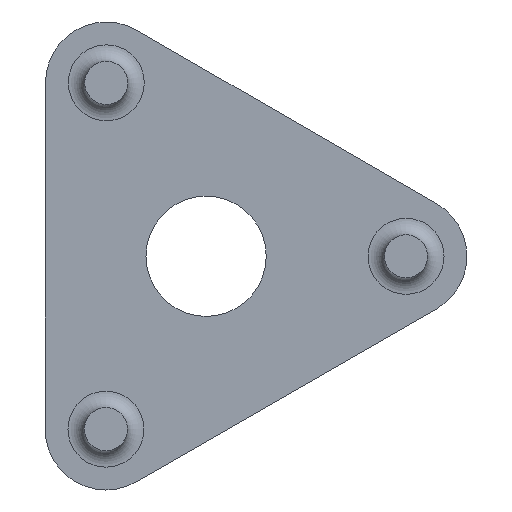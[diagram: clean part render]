
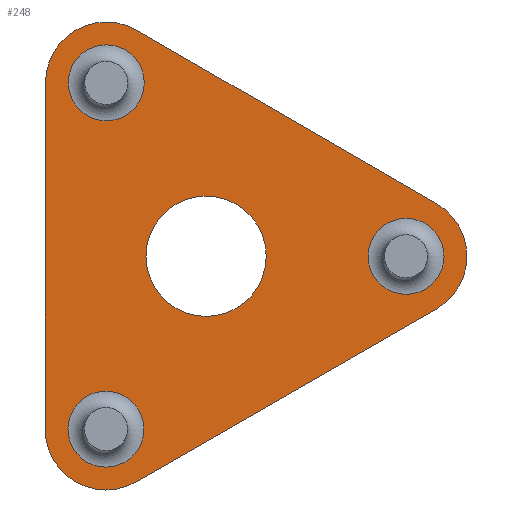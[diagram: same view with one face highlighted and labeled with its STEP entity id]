
A CAD part, front view. The second image highlights one B-rep face of the part: STEP entity #248.
In plain terms, the highlighted planar face has unit normal (0, -1, 0).
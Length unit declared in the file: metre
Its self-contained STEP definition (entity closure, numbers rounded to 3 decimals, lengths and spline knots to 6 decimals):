
#19=PLANE('',#286);
#25=LINE('',#402,#37);
#29=LINE('',#414,#41);
#33=LINE('',#426,#45);
#37=VECTOR('',#319,1.);
#41=VECTOR('',#331,1.);
#45=VECTOR('',#343,1.);
#78=ORIENTED_EDGE('',*,*,#124,.T.);
#79=ORIENTED_EDGE('',*,*,#125,.T.);
#80=ORIENTED_EDGE('',*,*,#126,.T.);
#81=ORIENTED_EDGE('',*,*,#127,.T.);
#82=ORIENTED_EDGE('',*,*,#105,.T.);
#83=ORIENTED_EDGE('',*,*,#121,.T.);
#84=ORIENTED_EDGE('',*,*,#118,.F.);
#85=ORIENTED_EDGE('',*,*,#115,.F.);
#86=ORIENTED_EDGE('',*,*,#112,.F.);
#87=ORIENTED_EDGE('',*,*,#109,.F.);
#105=EDGE_CURVE('',#134,#135,#157,.T.);
#109=EDGE_CURVE('',#134,#138,#25,.T.);
#112=EDGE_CURVE('',#138,#140,#159,.T.);
#115=EDGE_CURVE('',#140,#142,#29,.T.);
#118=EDGE_CURVE('',#142,#144,#161,.T.);
#121=EDGE_CURVE('',#135,#144,#33,.T.);
#124=EDGE_CURVE('',#147,#147,#164,.T.);
#125=EDGE_CURVE('',#148,#148,#165,.T.);
#126=EDGE_CURVE('',#149,#149,#166,.T.);
#127=EDGE_CURVE('',#150,#150,#167,.T.);
#134=VERTEX_POINT('',#394);
#135=VERTEX_POINT('',#395);
#138=VERTEX_POINT('',#403);
#140=VERTEX_POINT('',#409);
#142=VERTEX_POINT('',#415);
#144=VERTEX_POINT('',#421);
#147=VERTEX_POINT('',#433);
#148=VERTEX_POINT('',#435);
#149=VERTEX_POINT('',#437);
#150=VERTEX_POINT('',#439);
#157=CIRCLE('',#273,0.011127);
#159=CIRCLE('',#277,0.011127);
#161=CIRCLE('',#281,0.011127);
#164=CIRCLE('',#287,0.011);
#165=CIRCLE('',#288,0.00695);
#166=CIRCLE('',#289,0.00695);
#167=CIRCLE('',#290,0.00695);
#182=EDGE_LOOP('',(#78));
#183=EDGE_LOOP('',(#79));
#184=EDGE_LOOP('',(#80));
#185=EDGE_LOOP('',(#81));
#186=EDGE_LOOP('',(#82,#83,#84,#85,#86,#87));
#212=FACE_BOUND('',#182,.T.);
#213=FACE_BOUND('',#183,.T.);
#214=FACE_BOUND('',#184,.T.);
#215=FACE_BOUND('',#185,.T.);
#216=FACE_BOUND('',#186,.T.);
#248=ADVANCED_FACE('',(#212,#213,#214,#215,#216),#19,.F.);
#273=AXIS2_PLACEMENT_3D('',#393,#311,#312);
#277=AXIS2_PLACEMENT_3D('',#408,#324,#325);
#281=AXIS2_PLACEMENT_3D('',#420,#336,#337);
#286=AXIS2_PLACEMENT_3D('',#431,#349,#350);
#287=AXIS2_PLACEMENT_3D('',#432,#351,#352);
#288=AXIS2_PLACEMENT_3D('',#434,#353,#354);
#289=AXIS2_PLACEMENT_3D('',#436,#355,#356);
#290=AXIS2_PLACEMENT_3D('',#438,#357,#358);
#311=DIRECTION('',(0.,-1.,0.));
#312=DIRECTION('',(0.,0.,-1.));
#319=DIRECTION('',(-0.867,0.,-0.499));
#324=DIRECTION('',(0.,1.,0.));
#325=DIRECTION('',(0.,0.,1.));
#331=DIRECTION('',(0.001,0.,1.));
#336=DIRECTION('',(0.,1.,0.));
#337=DIRECTION('',(0.,0.,1.));
#343=DIRECTION('',(-0.866,0.,0.501));
#349=DIRECTION('',(0.,1.,0.));
#350=DIRECTION('',(-1.,0.,0.));
#351=DIRECTION('',(0.,1.,0.));
#352=DIRECTION('',(0.,0.,1.));
#353=DIRECTION('',(0.,1.,0.));
#354=DIRECTION('',(0.,0.,1.));
#355=DIRECTION('',(0.,1.,0.));
#356=DIRECTION('',(0.,0.,1.));
#357=DIRECTION('',(0.,1.,0.));
#358=DIRECTION('',(0.,0.,1.));
#393=CARTESIAN_POINT('',(0.036576,0.,0.));
#394=CARTESIAN_POINT('',(0.04213,0.,-0.009642));
#395=CARTESIAN_POINT('',(0.042149,0.,0.009631));
#402=CARTESIAN_POINT('',(0.014682,0.,-0.025452));
#403=CARTESIAN_POINT('',(-0.012765,0.,-0.041263));
#408=CARTESIAN_POINT('',(-0.018319,0.,-0.031621));
#409=CARTESIAN_POINT('',(-0.029446,0.,-0.03161));
#414=CARTESIAN_POINT('',(-0.029415,0.,0.000066));
#415=CARTESIAN_POINT('',(-0.029383,0.,0.031741));
#420=CARTESIAN_POINT('',(-0.018256,0.,0.03173));
#421=CARTESIAN_POINT('',(-0.012683,0.,0.041361));
#426=CARTESIAN_POINT('',(0.014733,0.,0.025496));
#431=CARTESIAN_POINT('',(0.013912,0.,0.000055));
#432=CARTESIAN_POINT('',(0.,0.,0.));
#433=CARTESIAN_POINT('',(0.,0.,0.011));
#434=CARTESIAN_POINT('',(0.036576,0.,0.));
#435=CARTESIAN_POINT('',(0.036576,0.,0.00695));
#436=CARTESIAN_POINT('',(-0.018256,0.,0.03173));
#437=CARTESIAN_POINT('',(-0.018256,0.,0.03868));
#438=CARTESIAN_POINT('',(-0.018319,0.,-0.031621));
#439=CARTESIAN_POINT('',(-0.018319,0.,-0.024671));
